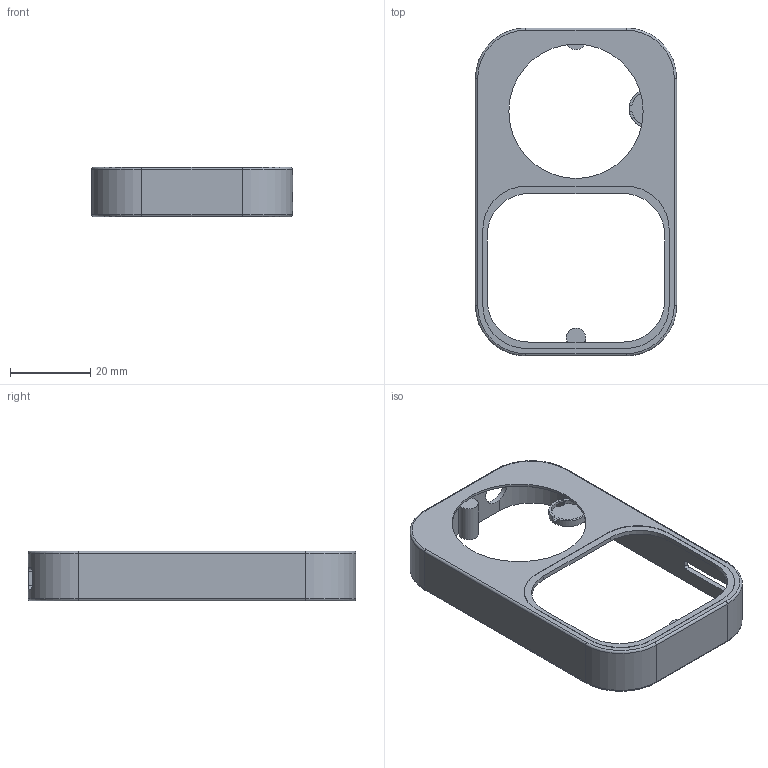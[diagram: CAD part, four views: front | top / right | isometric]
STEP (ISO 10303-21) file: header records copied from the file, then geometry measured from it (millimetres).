
FILE_DESCRIPTION(('FreeCAD Model'),'2;1');
FILE_NAME('Open CASCADE Shape Model','2026-09-23T10:52:39',('FreeCAD'),( 'FreeCAD'),'Open CASCADE STEP processor 7.8','FreeCAD','Unknown');
FILE_SCHEMA(('AUTOMOTIVE_DESIGN { 1 0 10303 214 1 1 1 1 }'));
Length unit declared in the file: millimetre
Products named in the file (1): Open CASCADE STEP translator 7.8 1
Bounding box: 50 x 81.5 x 12.3 mm (x, y, z)
Volume: 5133.7 mm3; surface area: 9256.6 mm2
Topology: 1 solids, 1 shells, 122 faces, 349 edges, 232 vertices
Faces by surface type: plane 62, cylinder 46, torus 8, cone 6
Full cylindrical faces by diameter (mm): 1.3 x6, 4.8 x1, 7.2 x1, 9.6 x1, 33.4 x1, 35 x1
Entity records: 4210 total; most frequent: CARTESIAN_POINT 861, DIRECTION 730, ORIENTED_EDGE 698, EDGE_CURVE 349, AXIS2_PLACEMENT_3D 271, VERTEX_POINT 232, LINE 188, VECTOR 188
